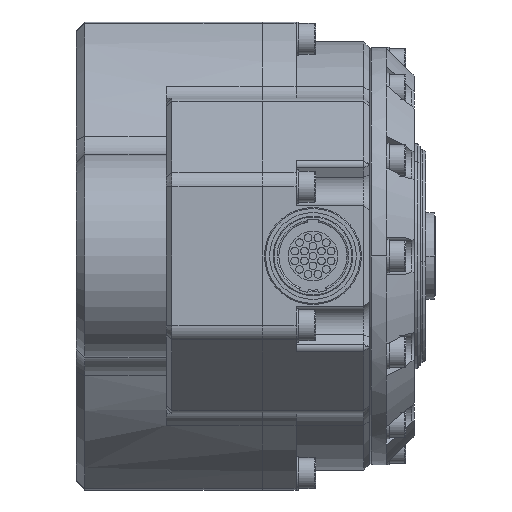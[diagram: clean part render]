
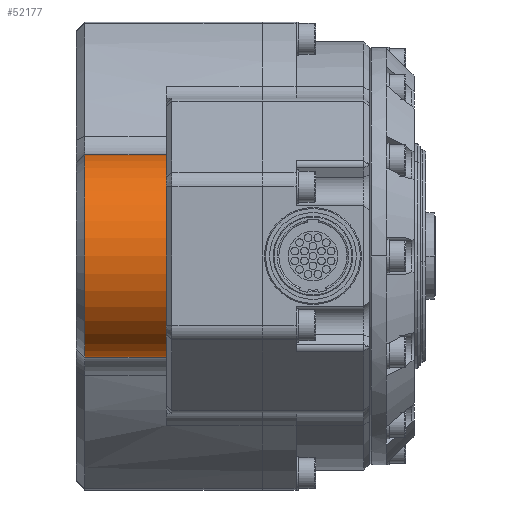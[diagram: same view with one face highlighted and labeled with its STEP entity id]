
A CAD part, left-side view. The second image highlights one B-rep face of the part: STEP entity #52177.
In plain terms, the highlighted cylindrical face has radius 18 mm (diameter 36 mm), a partial arc.
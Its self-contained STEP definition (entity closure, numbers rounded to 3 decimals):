
#173 = EDGE_CURVE ( 'NONE', #52012, #50731, #48161, .T. ) ;
#771 = ORIENTED_EDGE ( 'NONE', *, *, #173, .F. ) ;
#1120 = DIRECTION ( 'NONE',  ( 0., -1., 0. ) ) ;
#2633 = DIRECTION ( 'NONE',  ( 0., 1., 0. ) ) ;
#5372 = LINE ( 'NONE', #39064, #9807 ) ;
#5906 = CARTESIAN_POINT ( 'NONE',  ( -82., -159.064, 0. ) ) ;
#6487 = DIRECTION ( 'NONE',  ( 0., 1., 0. ) ) ;
#7451 = EDGE_CURVE ( 'NONE', #55013, #50731, #14110, .T. ) ;
#9116 = VECTOR ( 'NONE', #2633, 1000. ) ;
#9144 = CYLINDRICAL_SURFACE ( 'NONE', #51092, 18. ) ;
#9789 = CIRCLE ( 'NONE', #38136, 18. ) ;
#9807 = VECTOR ( 'NONE', #33902, 1000. ) ;
#10213 = CARTESIAN_POINT ( 'NONE',  ( -82., 50.5, 0. ) ) ;
#11266 = DIRECTION ( 'NONE',  ( 0., 0., 1. ) ) ;
#11892 = DIRECTION ( 'NONE',  ( 0., 0., 1. ) ) ;
#12285 = EDGE_CURVE ( 'NONE', #22686, #52012, #9789, .T. ) ;
#14110 = CIRCLE ( 'NONE', #51338, 18. ) ;
#14871 = EDGE_LOOP ( 'NONE', ( #16828, #47753, #771, #35265 ) ) ;
#16828 = ORIENTED_EDGE ( 'NONE', *, *, #53060, .T. ) ;
#20502 = DIRECTION ( 'NONE',  ( 0., 0., 1. ) ) ;
#20740 = DIRECTION ( 'NONE',  ( 0., -1., 0. ) ) ;
#22686 = VERTEX_POINT ( 'NONE', #41873 ) ;
#26376 = CARTESIAN_POINT ( 'NONE',  ( -82., -159.064, -18. ) ) ;
#30378 = CARTESIAN_POINT ( 'NONE',  ( -82., 36., 0. ) ) ;
#32477 = CARTESIAN_POINT ( 'NONE',  ( -82., 36., -18. ) ) ;
#33902 = DIRECTION ( 'NONE',  ( 0., 1., 0. ) ) ;
#35265 = ORIENTED_EDGE ( 'NONE', *, *, #12285, .F. ) ;
#35684 = FACE_OUTER_BOUND ( 'NONE', #14871, .T. ) ;
#38136 = AXIS2_PLACEMENT_3D ( 'NONE', #30378, #20740, #11892 ) ;
#39064 = CARTESIAN_POINT ( 'NONE',  ( -82., -159.064, 18. ) ) ;
#41873 = CARTESIAN_POINT ( 'NONE',  ( -82., 36., 18. ) ) ;
#47753 = ORIENTED_EDGE ( 'NONE', *, *, #7451, .T. ) ;
#48161 = LINE ( 'NONE', #26376, #9116 ) ;
#48727 = CARTESIAN_POINT ( 'NONE',  ( -82., 50.5, 18. ) ) ;
#50731 = VERTEX_POINT ( 'NONE', #59948 ) ;
#51092 = AXIS2_PLACEMENT_3D ( 'NONE', #5906, #6487, #11266 ) ;
#51338 = AXIS2_PLACEMENT_3D ( 'NONE', #10213, #1120, #20502 ) ;
#52012 = VERTEX_POINT ( 'NONE', #32477 ) ;
#52177 = ADVANCED_FACE ( 'NONE', ( #35684 ), #9144, .T. ) ;
#53060 = EDGE_CURVE ( 'NONE', #22686, #55013, #5372, .T. ) ;
#55013 = VERTEX_POINT ( 'NONE', #48727 ) ;
#59948 = CARTESIAN_POINT ( 'NONE',  ( -82., 50.5, -18. ) ) ;
